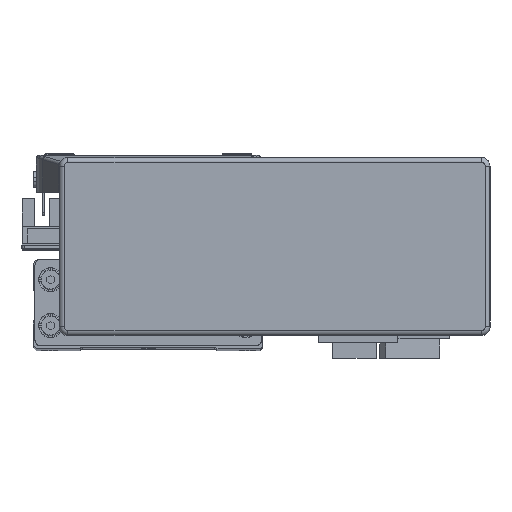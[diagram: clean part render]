
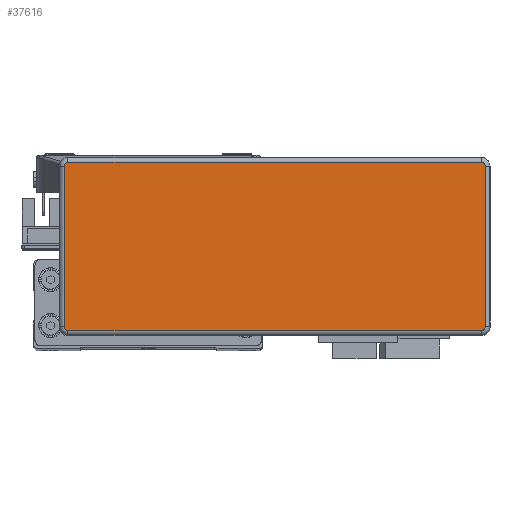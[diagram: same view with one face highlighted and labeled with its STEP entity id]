
A CAD part, top view. The second image highlights one B-rep face of the part: STEP entity #37616.
In plain terms, the highlighted planar face has unit normal (0, 0, 1) as drawn and (0, 0, -1) by its records, which use the part's own axes.
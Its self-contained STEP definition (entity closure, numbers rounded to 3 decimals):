
#1970 = AXIS2_PLACEMENT_3D ( 'NONE', #3890, #3891, #3883 ) ;
#2015 = AXIS2_PLACEMENT_3D ( 'NONE', #5224, #5214, #5215 ) ;
#2016 = AXIS2_PLACEMENT_3D ( 'NONE', #3893, #3908, #3910 ) ;
#2028 = AXIS2_PLACEMENT_3D ( 'NONE', #5349, #5356, #5348 ) ;
#3883 = DIRECTION ( 'NONE',  ( 1., 0., 0. ) ) ;
#3890 = CARTESIAN_POINT ( 'NONE',  ( 71.995, 27.995, -32.2 ) ) ;
#3891 = DIRECTION ( 'NONE',  ( 0., 0., -1. ) ) ;
#3893 = CARTESIAN_POINT ( 'NONE',  ( -71.995, 27.995, -32.2 ) ) ;
#3908 = DIRECTION ( 'NONE',  ( 0., 0., -1. ) ) ;
#3910 = DIRECTION ( 'NONE',  ( 1., 0., 0. ) ) ;
#4112 = VECTOR ( 'NONE', #5257, 1000. ) ;
#4113 = CIRCLE ( 'NONE', #2016, 1.3 ) ;
#4114 = CIRCLE ( 'NONE', #2015, 1.3 ) ;
#4118 = VECTOR ( 'NONE', #5200, 1000. ) ;
#4133 = LINE ( 'NONE', #5199, #4118 ) ;
#4136 = CIRCLE ( 'NONE', #1970, 1.3 ) ;
#4174 = LINE ( 'NONE', #5265, #4112 ) ;
#4186 = VECTOR ( 'NONE', #5393, 1000. ) ;
#4196 = CIRCLE ( 'NONE', #2028, 1.3 ) ;
#4200 = LINE ( 'NONE', #5362, #4186 ) ;
#4216 = LINE ( 'NONE', #5363, #4226 ) ;
#4226 = VECTOR ( 'NONE', #5399, 1000. ) ;
#5199 = CARTESIAN_POINT ( 'NONE',  ( 71.995, -29.295, -32.2 ) ) ;
#5200 = DIRECTION ( 'NONE',  ( -1., 0., 0. ) ) ;
#5214 = DIRECTION ( 'NONE',  ( 0., 0., -1. ) ) ;
#5215 = DIRECTION ( 'NONE',  ( 1., 0., 0. ) ) ;
#5224 = CARTESIAN_POINT ( 'NONE',  ( 71.995, -27.995, -32.2 ) ) ;
#5257 = DIRECTION ( 'NONE',  ( 1., 0., 0. ) ) ;
#5265 = CARTESIAN_POINT ( 'NONE',  ( 71.995, 29.295, -32.2 ) ) ;
#5348 = DIRECTION ( 'NONE',  ( 1., 0., 0. ) ) ;
#5349 = CARTESIAN_POINT ( 'NONE',  ( -71.995, -27.995, -32.2 ) ) ;
#5356 = DIRECTION ( 'NONE',  ( 0., 0., -1. ) ) ;
#5362 = CARTESIAN_POINT ( 'NONE',  ( -73.295, -27.995, -32.2 ) ) ;
#5363 = CARTESIAN_POINT ( 'NONE',  ( 73.295, -27.995, -32.2 ) ) ;
#5393 = DIRECTION ( 'NONE',  ( 0., 1., 0. ) ) ;
#5399 = DIRECTION ( 'NONE',  ( 0., -1., 0. ) ) ;
#9175 = CARTESIAN_POINT ( 'NONE',  ( 71.995, 29.295, -32.2 ) ) ;
#9186 = CARTESIAN_POINT ( 'NONE',  ( -73.295, 27.995, -32.2 ) ) ;
#9223 = CARTESIAN_POINT ( 'NONE',  ( 73.295, 27.995, -32.2 ) ) ;
#9238 = CARTESIAN_POINT ( 'NONE',  ( 73.295, -27.995, -32.2 ) ) ;
#9248 = CARTESIAN_POINT ( 'NONE',  ( 71.995, -29.295, -32.2 ) ) ;
#9261 = CARTESIAN_POINT ( 'NONE',  ( -71.995, 29.295, -32.2 ) ) ;
#9273 = CARTESIAN_POINT ( 'NONE',  ( -73.295, -27.995, -32.2 ) ) ;
#9341 = CARTESIAN_POINT ( 'NONE',  ( -71.995, -29.295, -32.2 ) ) ;
#14657 = AXIS2_PLACEMENT_3D ( 'NONE', #27813, #27751, #27817 ) ;
#19222 = EDGE_CURVE ( 'NONE', #34481, #34542, #4136, .T. ) ;
#19226 = EDGE_CURVE ( 'NONE', #34528, #34603, #4113, .T. ) ;
#19236 = EDGE_CURVE ( 'NONE', #34585, #34608, #4133, .T. ) ;
#19241 = EDGE_CURVE ( 'NONE', #34572, #34585, #4114, .T. ) ;
#19259 = EDGE_CURVE ( 'NONE', #34603, #34481, #4174, .T. ) ;
#19277 = EDGE_CURVE ( 'NONE', #34608, #34584, #4196, .T. ) ;
#19295 = EDGE_CURVE ( 'NONE', #34584, #34528, #4200, .T. ) ;
#19296 = EDGE_CURVE ( 'NONE', #34542, #34572, #4216, .T. ) ;
#24741 = ORIENTED_EDGE ( 'NONE', *, *, #19296, .T. ) ;
#24746 = ORIENTED_EDGE ( 'NONE', *, *, #19241, .T. ) ;
#24747 = ORIENTED_EDGE ( 'NONE', *, *, #19295, .T. ) ;
#24749 = ORIENTED_EDGE ( 'NONE', *, *, #19236, .T. ) ;
#26873 = ORIENTED_EDGE ( 'NONE', *, *, #19226, .T. ) ;
#26897 = ORIENTED_EDGE ( 'NONE', *, *, #19259, .T. ) ;
#26899 = ORIENTED_EDGE ( 'NONE', *, *, #19222, .T. ) ;
#26911 = ORIENTED_EDGE ( 'NONE', *, *, #19277, .T. ) ;
#27751 = DIRECTION ( 'NONE',  ( 0., 0., 1. ) ) ;
#27753 = PLANE ( 'NONE',  #14657 ) ;
#27813 = CARTESIAN_POINT ( 'NONE',  ( 71.995, -27.995, -32.2 ) ) ;
#27817 = DIRECTION ( 'NONE',  ( 1., 0., 0. ) ) ;
#29437 = FACE_OUTER_BOUND ( 'NONE', #34701, .T. ) ;
#34481 = VERTEX_POINT ( 'NONE', #9175 ) ;
#34528 = VERTEX_POINT ( 'NONE', #9186 ) ;
#34542 = VERTEX_POINT ( 'NONE', #9223 ) ;
#34572 = VERTEX_POINT ( 'NONE', #9238 ) ;
#34584 = VERTEX_POINT ( 'NONE', #9273 ) ;
#34585 = VERTEX_POINT ( 'NONE', #9248 ) ;
#34603 = VERTEX_POINT ( 'NONE', #9261 ) ;
#34608 = VERTEX_POINT ( 'NONE', #9341 ) ;
#34701 = EDGE_LOOP ( 'NONE', ( #24741, #24746, #24749, #26911, #24747, #26873, #26897, #26899 ) ) ;
#37616 = ADVANCED_FACE ( 'NONE', ( #29437 ), #27753, .F. ) ;
